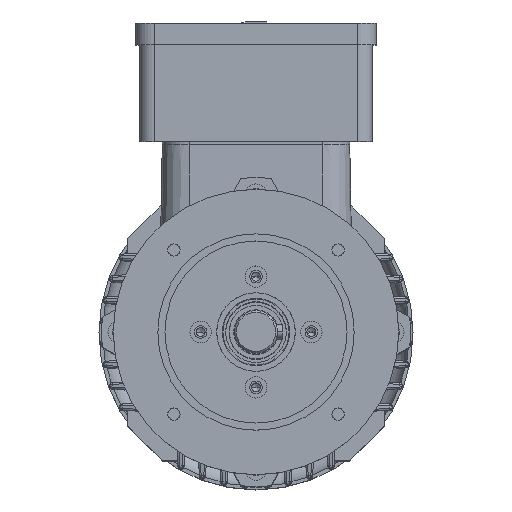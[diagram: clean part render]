
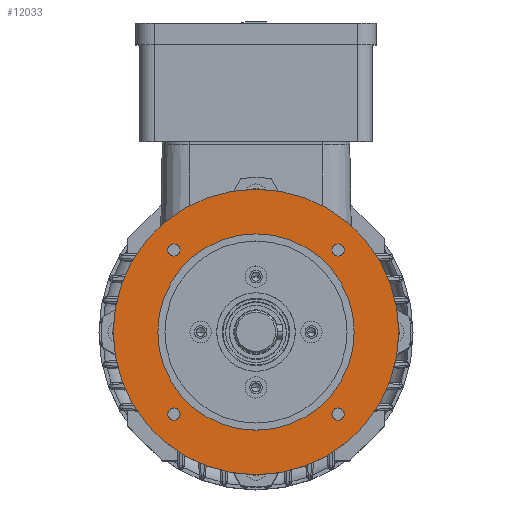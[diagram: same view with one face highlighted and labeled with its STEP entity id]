
A CAD part, top view. The second image highlights one B-rep face of the part: STEP entity #12033.
In plain terms, the highlighted planar face has unit normal (0, 0, 1).
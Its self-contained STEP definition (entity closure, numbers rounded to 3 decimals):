
#926 = CARTESIAN_POINT ( 'NONE',  ( 45.962, -45.962, 136.5 ) ) ;
#3158 = VERTEX_POINT ( 'NONE', #69986 ) ;
#3463 = EDGE_LOOP ( 'NONE', ( #57812, #17868 ) ) ;
#4262 = EDGE_CURVE ( 'NONE', #92961, #46902, #35850, .T. ) ;
#6248 = CIRCLE ( 'NONE', #88250, 3.4 ) ;
#6344 = DIRECTION ( 'NONE',  ( 1., 0., 0. ) ) ;
#6375 = CARTESIAN_POINT ( 'NONE',  ( -55., 0., 136.5 ) ) ;
#8339 = ORIENTED_EDGE ( 'NONE', *, *, #33888, .F. ) ;
#8620 = ORIENTED_EDGE ( 'NONE', *, *, #92659, .F. ) ;
#9550 = CARTESIAN_POINT ( 'NONE',  ( 42.562, 45.962, 136.5 ) ) ;
#9887 = VERTEX_POINT ( 'NONE', #60166 ) ;
#10432 = DIRECTION ( 'NONE',  ( 0., 0., 1. ) ) ;
#10717 = DIRECTION ( 'NONE',  ( 1., 0., 0. ) ) ;
#12033 = ADVANCED_FACE ( 'NONE', ( #12236, #15433, #72256, #116562, #24900, #94419 ), #105591, .F. ) ;
#12236 = FACE_BOUND ( 'NONE', #80982, .T. ) ;
#12560 = DIRECTION ( 'NONE',  ( 0., 0., 1. ) ) ;
#14616 = CARTESIAN_POINT ( 'NONE',  ( 0., 55., 136.5 ) ) ;
#15099 = CARTESIAN_POINT ( 'NONE',  ( -80., 0., 136.5 ) ) ;
#15433 = FACE_BOUND ( 'NONE', #125950, .T. ) ;
#15476 = DIRECTION ( 'NONE',  ( 0., 0., -1. ) ) ;
#17285 = DIRECTION ( 'NONE',  ( 0., 0., 1. ) ) ;
#17868 = ORIENTED_EDGE ( 'NONE', *, *, #106885, .F. ) ;
#21605 = VERTEX_POINT ( 'NONE', #130338 ) ;
#22727 = DIRECTION ( 'NONE',  ( 1., 0., 0. ) ) ;
#24403 = EDGE_CURVE ( 'NONE', #76157, #21605, #36675, .T. ) ;
#24900 = FACE_BOUND ( 'NONE', #93055, .T. ) ;
#26179 = ORIENTED_EDGE ( 'NONE', *, *, #24403, .F. ) ;
#26842 = AXIS2_PLACEMENT_3D ( 'NONE', #61966, #83124, #33239 ) ;
#27122 = CARTESIAN_POINT ( 'NONE',  ( 49.362, -45.962, 136.5 ) ) ;
#27644 = DIRECTION ( 'NONE',  ( 1., 0., 0. ) ) ;
#28643 = CIRCLE ( 'NONE', #58216, 3.4 ) ;
#30374 = VERTEX_POINT ( 'NONE', #127887 ) ;
#31566 = EDGE_CURVE ( 'NONE', #3158, #33983, #60811, .T. ) ;
#31583 = DIRECTION ( 'NONE',  ( 1., 0., 0. ) ) ;
#33239 = DIRECTION ( 'NONE',  ( 1., 0., 0. ) ) ;
#33888 = EDGE_CURVE ( 'NONE', #76939, #30374, #61332, .T. ) ;
#33983 = VERTEX_POINT ( 'NONE', #15099 ) ;
#34286 = VERTEX_POINT ( 'NONE', #27122 ) ;
#35850 = CIRCLE ( 'NONE', #65584, 55. ) ;
#36675 = CIRCLE ( 'NONE', #26842, 3.4 ) ;
#37600 = CARTESIAN_POINT ( 'NONE',  ( 0., 0., 136.5 ) ) ;
#38357 = EDGE_CURVE ( 'NONE', #9887, #125034, #28643, .T. ) ;
#42588 = DIRECTION ( 'NONE',  ( 0., 0., 1. ) ) ;
#43887 = DIRECTION ( 'NONE',  ( 1., 0., 0. ) ) ;
#45670 = DIRECTION ( 'NONE',  ( 0., 0., 1. ) ) ;
#46902 = VERTEX_POINT ( 'NONE', #68886 ) ;
#48315 = CIRCLE ( 'NONE', #82295, 3.4 ) ;
#51795 = DIRECTION ( 'NONE',  ( 0., 0., 1. ) ) ;
#54087 = DIRECTION ( 'NONE',  ( 0., 0., 1. ) ) ;
#54438 = EDGE_CURVE ( 'NONE', #30374, #76939, #114912, .T. ) ;
#55609 = AXIS2_PLACEMENT_3D ( 'NONE', #37600, #17285, #67141 ) ;
#55901 = EDGE_CURVE ( 'NONE', #33983, #3158, #112904, .T. ) ;
#56643 = DIRECTION ( 'NONE',  ( 0., 0., 1. ) ) ;
#57812 = ORIENTED_EDGE ( 'NONE', *, *, #83394, .F. ) ;
#58216 = AXIS2_PLACEMENT_3D ( 'NONE', #119145, #96072, #27644 ) ;
#60166 = CARTESIAN_POINT ( 'NONE',  ( 49.362, 45.962, 136.5 ) ) ;
#60811 = CIRCLE ( 'NONE', #129848, 80. ) ;
#61332 = CIRCLE ( 'NONE', #81988, 3.4 ) ;
#61966 = CARTESIAN_POINT ( 'NONE',  ( -45.962, 45.962, 136.5 ) ) ;
#61969 = DIRECTION ( 'NONE',  ( 1., 0., 0. ) ) ;
#62198 = ORIENTED_EDGE ( 'NONE', *, *, #31566, .T. ) ;
#64646 = DIRECTION ( 'NONE',  ( 1., 0., 0. ) ) ;
#65584 = AXIS2_PLACEMENT_3D ( 'NONE', #103115, #42588, #43887 ) ;
#65984 = VERTEX_POINT ( 'NONE', #97194 ) ;
#65997 = EDGE_CURVE ( 'NONE', #46902, #92961, #73813, .T. ) ;
#66218 = DIRECTION ( 'NONE',  ( -1., 0., 0. ) ) ;
#67141 = DIRECTION ( 'NONE',  ( 1., 0., 0. ) ) ;
#67833 = CIRCLE ( 'NONE', #88733, 3.4 ) ;
#68886 = CARTESIAN_POINT ( 'NONE',  ( 55., 0., 136.5 ) ) ;
#69986 = CARTESIAN_POINT ( 'NONE',  ( 80., 0., 136.5 ) ) ;
#71244 = AXIS2_PLACEMENT_3D ( 'NONE', #73014, #12560, #22727 ) ;
#72256 = FACE_BOUND ( 'NONE', #3463, .T. ) ;
#73014 = CARTESIAN_POINT ( 'NONE',  ( -45.962, -45.962, 136.5 ) ) ;
#73813 = CIRCLE ( 'NONE', #55609, 55. ) ;
#73931 = EDGE_LOOP ( 'NONE', ( #75140, #87780 ) ) ;
#75140 = ORIENTED_EDGE ( 'NONE', *, *, #38357, .F. ) ;
#75240 = CARTESIAN_POINT ( 'NONE',  ( 0., 0., 136.5 ) ) ;
#76157 = VERTEX_POINT ( 'NONE', #119001 ) ;
#76939 = VERTEX_POINT ( 'NONE', #127525 ) ;
#77587 = CIRCLE ( 'NONE', #94650, 3.4 ) ;
#80982 = EDGE_LOOP ( 'NONE', ( #8620, #26179 ) ) ;
#81988 = AXIS2_PLACEMENT_3D ( 'NONE', #112294, #51795, #61969 ) ;
#82295 = AXIS2_PLACEMENT_3D ( 'NONE', #926, #93247, #10717 ) ;
#83124 = DIRECTION ( 'NONE',  ( 0., 0., 1. ) ) ;
#83394 = EDGE_CURVE ( 'NONE', #34286, #65984, #48315, .T. ) ;
#83649 = CARTESIAN_POINT ( 'NONE',  ( 45.962, 45.962, 136.5 ) ) ;
#87780 = ORIENTED_EDGE ( 'NONE', *, *, #129878, .F. ) ;
#88250 = AXIS2_PLACEMENT_3D ( 'NONE', #112398, #10432, #31583 ) ;
#88733 = AXIS2_PLACEMENT_3D ( 'NONE', #83649, #54087, #64646 ) ;
#90157 = ORIENTED_EDGE ( 'NONE', *, *, #55901, .T. ) ;
#92659 = EDGE_CURVE ( 'NONE', #21605, #76157, #6248, .T. ) ;
#92961 = VERTEX_POINT ( 'NONE', #6375 ) ;
#93055 = EDGE_LOOP ( 'NONE', ( #99992, #97308 ) ) ;
#93247 = DIRECTION ( 'NONE',  ( 0., 0., 1. ) ) ;
#94419 = FACE_OUTER_BOUND ( 'NONE', #108684, .T. ) ;
#94650 = AXIS2_PLACEMENT_3D ( 'NONE', #127831, #96887, #105806 ) ;
#96072 = DIRECTION ( 'NONE',  ( 0., 0., 1. ) ) ;
#96887 = DIRECTION ( 'NONE',  ( 0., 0., 1. ) ) ;
#97194 = CARTESIAN_POINT ( 'NONE',  ( 42.562, -45.962, 136.5 ) ) ;
#97308 = ORIENTED_EDGE ( 'NONE', *, *, #4262, .F. ) ;
#99992 = ORIENTED_EDGE ( 'NONE', *, *, #65997, .F. ) ;
#103115 = CARTESIAN_POINT ( 'NONE',  ( 0., 0., 136.5 ) ) ;
#105591 = PLANE ( 'NONE',  #130813 ) ;
#105806 = DIRECTION ( 'NONE',  ( 1., 0., 0. ) ) ;
#106885 = EDGE_CURVE ( 'NONE', #65984, #34286, #77587, .T. ) ;
#108336 = CARTESIAN_POINT ( 'NONE',  ( 0., 0., 136.5 ) ) ;
#108684 = EDGE_LOOP ( 'NONE', ( #62198, #90157 ) ) ;
#112294 = CARTESIAN_POINT ( 'NONE',  ( -45.962, -45.962, 136.5 ) ) ;
#112398 = CARTESIAN_POINT ( 'NONE',  ( -45.962, 45.962, 136.5 ) ) ;
#112904 = CIRCLE ( 'NONE', #118130, 80. ) ;
#113133 = ORIENTED_EDGE ( 'NONE', *, *, #54438, .F. ) ;
#114912 = CIRCLE ( 'NONE', #71244, 3.4 ) ;
#115902 = DIRECTION ( 'NONE',  ( 1., 0., 0. ) ) ;
#116562 = FACE_BOUND ( 'NONE', #73931, .T. ) ;
#118130 = AXIS2_PLACEMENT_3D ( 'NONE', #75240, #45670, #115902 ) ;
#119001 = CARTESIAN_POINT ( 'NONE',  ( -49.362, 45.962, 136.5 ) ) ;
#119145 = CARTESIAN_POINT ( 'NONE',  ( 45.962, 45.962, 136.5 ) ) ;
#125034 = VERTEX_POINT ( 'NONE', #9550 ) ;
#125950 = EDGE_LOOP ( 'NONE', ( #8339, #113133 ) ) ;
#127525 = CARTESIAN_POINT ( 'NONE',  ( -42.562, -45.962, 136.5 ) ) ;
#127831 = CARTESIAN_POINT ( 'NONE',  ( 45.962, -45.962, 136.5 ) ) ;
#127887 = CARTESIAN_POINT ( 'NONE',  ( -49.362, -45.962, 136.5 ) ) ;
#129848 = AXIS2_PLACEMENT_3D ( 'NONE', #108336, #56643, #6344 ) ;
#129878 = EDGE_CURVE ( 'NONE', #125034, #9887, #67833, .T. ) ;
#130338 = CARTESIAN_POINT ( 'NONE',  ( -42.562, 45.962, 136.5 ) ) ;
#130813 = AXIS2_PLACEMENT_3D ( 'NONE', #14616, #15476, #66218 ) ;
